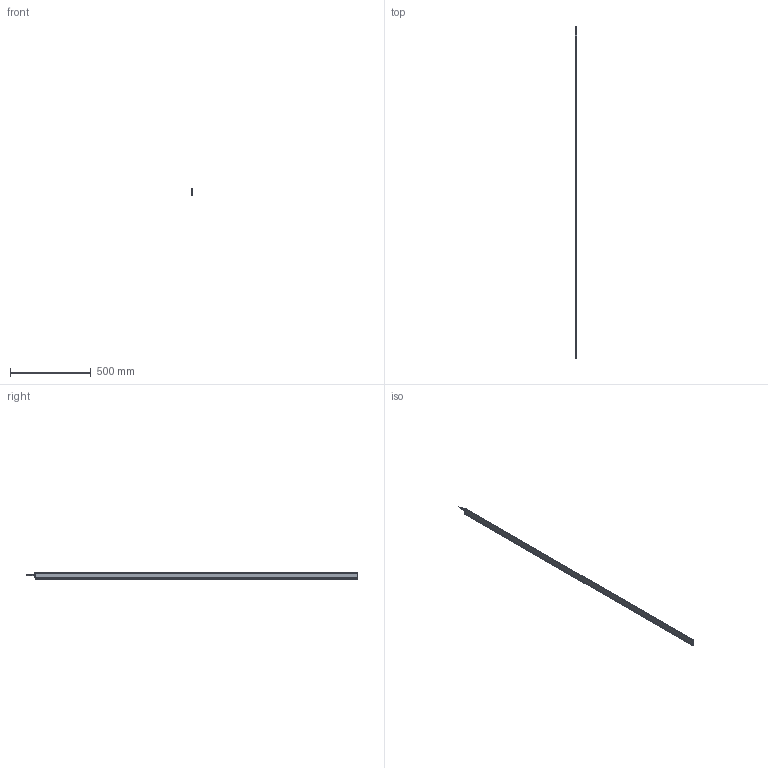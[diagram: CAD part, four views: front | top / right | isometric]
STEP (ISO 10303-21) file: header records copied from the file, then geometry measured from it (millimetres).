
FILE_DESCRIPTION (( 'STEP AP214' ), '1' );
FILE_NAME ('ILG-L-K2-2000mm.STEP', '2017-07-11T08:38:48', ( '' ), ( '' ), 'SwSTEP 2.0', 'SolidWorks 2016', '' );
FILE_SCHEMA (( 'AUTOMOTIVE_DESIGN' ));
Length unit declared in the file: millimetre
Products named in the file (1): ILG-L-K2-2000mm
Bounding box: 9 x 2054.5 x 40.71 mm (x, y, z)
Surface area: 395065.2 mm2 (no closed solid volume)
Topology: 0 solids, 13 shells, 681 faces, 1786 edges, 1135 vertices
Faces by surface type: cylinder 288, plane 255, cone 90, bspline 32, torus 16
Entity records: 30628 total; most frequent: CARTESIAN_POINT 6489, ORIENTED_EDGE 3525, DIRECTION 3406, EDGE_CURVE 1770, AXIS2_PLACEMENT_3D 1301, VERTEX_POINT 1135, VECTOR 804, LINE 804
